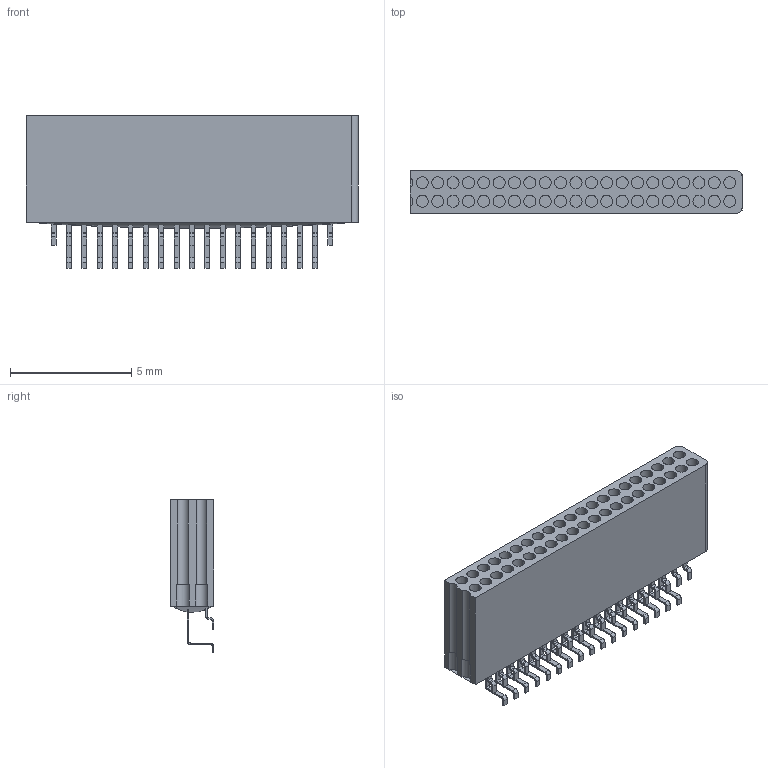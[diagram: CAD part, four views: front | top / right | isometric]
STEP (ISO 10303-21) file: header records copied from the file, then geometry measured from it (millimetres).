
FILE_DESCRIPTION (( 'STEP AP214' ), '1' );
FILE_NAME ('A79032-001 REV C.STEP', '2015-11-06T12:30:54', ( '' ), ( '' ), 'SwSTEP 2.0', 'SolidWorks 2015', '' );
FILE_SCHEMA (( 'AUTOMOTIVE_DESIGN' ));
Length unit declared in the file: inch
Products named in the file (1): A79032-001
Bounding box: 13.72 x 1.79 x 6.3 mm (x, y, z)
Volume: 72.2 mm3; surface area: 523.6 mm2
Topology: 1 solids, 1 shells, 907 faces, 2329 edges, 1545 vertices
Faces by surface type: plane 531, cylinder 322, bspline 54
Entity records: 30273 total; most frequent: CARTESIAN_POINT 7878, ORIENTED_EDGE 4650, DIRECTION 4599, EDGE_CURVE 2325, AXIS2_PLACEMENT_3D 1564, VERTEX_POINT 1545, LINE 1471, VECTOR 1471
